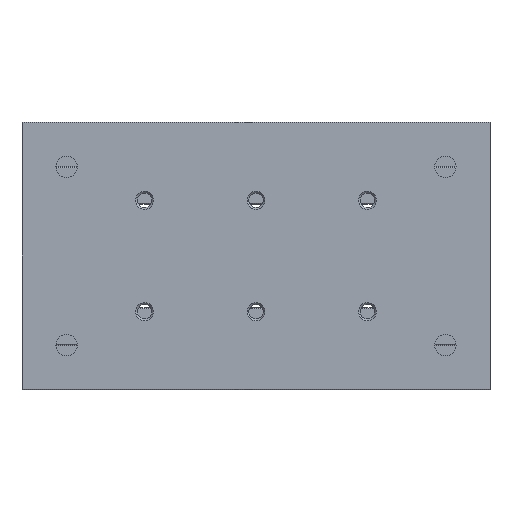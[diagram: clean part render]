
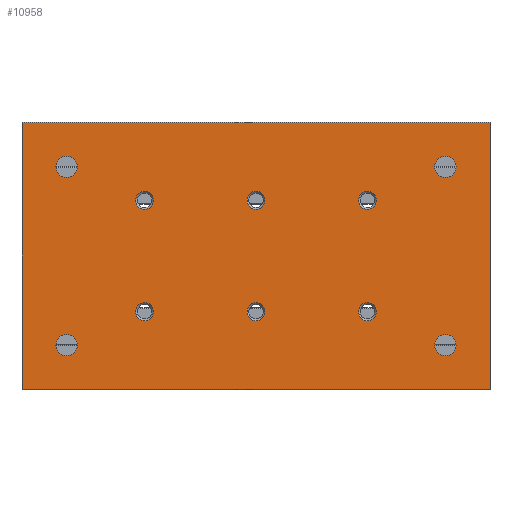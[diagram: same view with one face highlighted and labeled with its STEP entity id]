
A CAD part, front view. The second image highlights one B-rep face of the part: STEP entity #10958.
In plain terms, the highlighted planar face has unit normal (0, -1, 0).
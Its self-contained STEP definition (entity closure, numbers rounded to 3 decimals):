
#366=CIRCLE('',#11608,2.);
#367=CIRCLE('',#11609,2.);
#368=CIRCLE('',#11610,2.);
#369=CIRCLE('',#11611,2.);
#370=CIRCLE('',#11612,2.);
#371=CIRCLE('',#11613,2.);
#372=CIRCLE('',#11614,2.4);
#373=CIRCLE('',#11615,2.4);
#374=CIRCLE('',#11616,2.4);
#375=CIRCLE('',#11617,2.4);
#1104=ORIENTED_EDGE('',*,*,#4449,.F.);
#1105=ORIENTED_EDGE('',*,*,#4450,.F.);
#1106=ORIENTED_EDGE('',*,*,#4451,.F.);
#1107=ORIENTED_EDGE('',*,*,#4452,.F.);
#1108=ORIENTED_EDGE('',*,*,#4453,.F.);
#1109=ORIENTED_EDGE('',*,*,#4454,.F.);
#1110=ORIENTED_EDGE('',*,*,#4455,.T.);
#1111=ORIENTED_EDGE('',*,*,#4456,.F.);
#1112=ORIENTED_EDGE('',*,*,#4457,.F.);
#1113=ORIENTED_EDGE('',*,*,#4458,.F.);
#1114=ORIENTED_EDGE('',*,*,#4423,.T.);
#1115=ORIENTED_EDGE('',*,*,#4459,.F.);
#1116=ORIENTED_EDGE('',*,*,#4460,.F.);
#1117=ORIENTED_EDGE('',*,*,#4447,.T.);
#4423=EDGE_CURVE('',#6098,#6097,#7223,.T.);
#4447=EDGE_CURVE('',#6120,#6098,#7247,.T.);
#4449=EDGE_CURVE('',#6121,#6121,#366,.T.);
#4450=EDGE_CURVE('',#6122,#6122,#367,.T.);
#4451=EDGE_CURVE('',#6123,#6123,#368,.T.);
#4452=EDGE_CURVE('',#6124,#6124,#369,.T.);
#4453=EDGE_CURVE('',#6125,#6125,#370,.T.);
#4454=EDGE_CURVE('',#6126,#6126,#371,.T.);
#4455=EDGE_CURVE('',#6127,#6127,#372,.T.);
#4456=EDGE_CURVE('',#6128,#6128,#373,.T.);
#4457=EDGE_CURVE('',#6129,#6129,#374,.T.);
#4458=EDGE_CURVE('',#6130,#6130,#375,.T.);
#4459=EDGE_CURVE('',#6131,#6097,#7249,.T.);
#4460=EDGE_CURVE('',#6120,#6131,#7250,.T.);
#6097=VERTEX_POINT('',#16574);
#6098=VERTEX_POINT('',#16576);
#6120=VERTEX_POINT('',#16625);
#6121=VERTEX_POINT('',#16629);
#6122=VERTEX_POINT('',#16631);
#6123=VERTEX_POINT('',#16633);
#6124=VERTEX_POINT('',#16635);
#6125=VERTEX_POINT('',#16637);
#6126=VERTEX_POINT('',#16639);
#6127=VERTEX_POINT('',#16641);
#6128=VERTEX_POINT('',#16643);
#6129=VERTEX_POINT('',#16645);
#6130=VERTEX_POINT('',#16647);
#6131=VERTEX_POINT('',#16649);
#7223=LINE('',#16575,#8243);
#7247=LINE('',#16624,#8267);
#7249=LINE('',#16648,#8269);
#7250=LINE('',#16650,#8270);
#8243=VECTOR('',#12948,1000.);
#8267=VECTOR('',#12978,1000.);
#8269=VECTOR('',#13002,1000.);
#8270=VECTOR('',#13003,1000.);
#9219=EDGE_LOOP('',(#1104));
#9220=EDGE_LOOP('',(#1105));
#9221=EDGE_LOOP('',(#1106));
#9222=EDGE_LOOP('',(#1107));
#9223=EDGE_LOOP('',(#1108));
#9224=EDGE_LOOP('',(#1109));
#9225=EDGE_LOOP('',(#1110));
#9226=EDGE_LOOP('',(#1111));
#9227=EDGE_LOOP('',(#1112));
#9228=EDGE_LOOP('',(#1113));
#9229=EDGE_LOOP('',(#1114,#1115,#1116,#1117));
#9945=FACE_BOUND('',#9219,.T.);
#9946=FACE_BOUND('',#9220,.T.);
#9947=FACE_BOUND('',#9221,.T.);
#9948=FACE_BOUND('',#9222,.T.);
#9949=FACE_BOUND('',#9223,.T.);
#9950=FACE_BOUND('',#9224,.T.);
#9951=FACE_BOUND('',#9225,.T.);
#9952=FACE_BOUND('',#9226,.T.);
#9953=FACE_BOUND('',#9227,.T.);
#9954=FACE_BOUND('',#9228,.T.);
#9955=FACE_BOUND('',#9229,.T.);
#10671=PLANE('',#11607);
#10958=ADVANCED_FACE('',(#9945,#9946,#9947,#9948,#9949,#9950,#9951,#9952,
#9953,#9954,#9955),#10671,.F.);
#11607=AXIS2_PLACEMENT_3D('',#16627,#12980,#12981);
#11608=AXIS2_PLACEMENT_3D('',#16628,#12982,#12983);
#11609=AXIS2_PLACEMENT_3D('',#16630,#12984,#12985);
#11610=AXIS2_PLACEMENT_3D('',#16632,#12986,#12987);
#11611=AXIS2_PLACEMENT_3D('',#16634,#12988,#12989);
#11612=AXIS2_PLACEMENT_3D('',#16636,#12990,#12991);
#11613=AXIS2_PLACEMENT_3D('',#16638,#12992,#12993);
#11614=AXIS2_PLACEMENT_3D('',#16640,#12994,#12995);
#11615=AXIS2_PLACEMENT_3D('',#16642,#12996,#12997);
#11616=AXIS2_PLACEMENT_3D('',#16644,#12998,#12999);
#11617=AXIS2_PLACEMENT_3D('',#16646,#13000,#13001);
#12948=DIRECTION('',(0.,0.,-1.));
#12978=DIRECTION('',(-1.,0.,0.));
#12980=DIRECTION('',(0.,1.,0.));
#12981=DIRECTION('',(0.,0.,1.));
#12982=DIRECTION('',(0.,-1.,0.));
#12983=DIRECTION('',(0.,0.,-1.));
#12984=DIRECTION('',(0.,-1.,0.));
#12985=DIRECTION('',(0.,0.,-1.));
#12986=DIRECTION('',(0.,-1.,0.));
#12987=DIRECTION('',(0.,0.,-1.));
#12988=DIRECTION('',(0.,-1.,0.));
#12989=DIRECTION('',(0.,0.,-1.));
#12990=DIRECTION('',(0.,-1.,0.));
#12991=DIRECTION('',(0.,0.,-1.));
#12992=DIRECTION('',(0.,-1.,0.));
#12993=DIRECTION('',(0.,0.,-1.));
#12994=DIRECTION('',(0.,1.,0.));
#12995=DIRECTION('',(0.,0.,1.));
#12996=DIRECTION('',(0.,-1.,0.));
#12997=DIRECTION('',(0.,0.,-1.));
#12998=DIRECTION('',(0.,-1.,0.));
#12999=DIRECTION('',(0.,0.,-1.));
#13000=DIRECTION('',(0.,-1.,0.));
#13001=DIRECTION('',(0.,0.,-1.));
#13002=DIRECTION('',(-1.,0.,0.));
#13003=DIRECTION('',(0.,0.,-1.));
#16574=CARTESIAN_POINT('',(0.,0.,-29.85));
#16575=CARTESIAN_POINT('',(0.,0.,29.85));
#16576=CARTESIAN_POINT('',(0.,0.,29.85));
#16624=CARTESIAN_POINT('',(105.,0.,29.85));
#16625=CARTESIAN_POINT('',(105.,0.,29.85));
#16627=CARTESIAN_POINT('',(105.,0.,29.85));
#16628=CARTESIAN_POINT('',(77.5,0.,-12.5));
#16629=CARTESIAN_POINT('',(77.5,0.,-14.5));
#16630=CARTESIAN_POINT('',(77.5,0.,12.5));
#16631=CARTESIAN_POINT('',(77.5,0.,10.5));
#16632=CARTESIAN_POINT('',(27.5,0.,-12.5));
#16633=CARTESIAN_POINT('',(27.5,0.,-14.5));
#16634=CARTESIAN_POINT('',(27.5,0.,12.5));
#16635=CARTESIAN_POINT('',(27.5,0.,10.5));
#16636=CARTESIAN_POINT('',(52.5,0.,-12.5));
#16637=CARTESIAN_POINT('',(52.5,0.,-14.5));
#16638=CARTESIAN_POINT('',(52.5,0.,12.5));
#16639=CARTESIAN_POINT('',(52.5,0.,10.5));
#16640=CARTESIAN_POINT('',(95.,0.,20.));
#16641=CARTESIAN_POINT('',(95.,0.,22.4));
#16642=CARTESIAN_POINT('',(95.,0.,-20.));
#16643=CARTESIAN_POINT('',(95.,0.,-22.4));
#16644=CARTESIAN_POINT('',(10.,0.,-20.));
#16645=CARTESIAN_POINT('',(10.,0.,-22.4));
#16646=CARTESIAN_POINT('',(10.,0.,20.));
#16647=CARTESIAN_POINT('',(10.,0.,17.6));
#16648=CARTESIAN_POINT('',(105.,0.,-29.85));
#16649=CARTESIAN_POINT('',(105.,0.,-29.85));
#16650=CARTESIAN_POINT('',(105.,0.,29.85));
